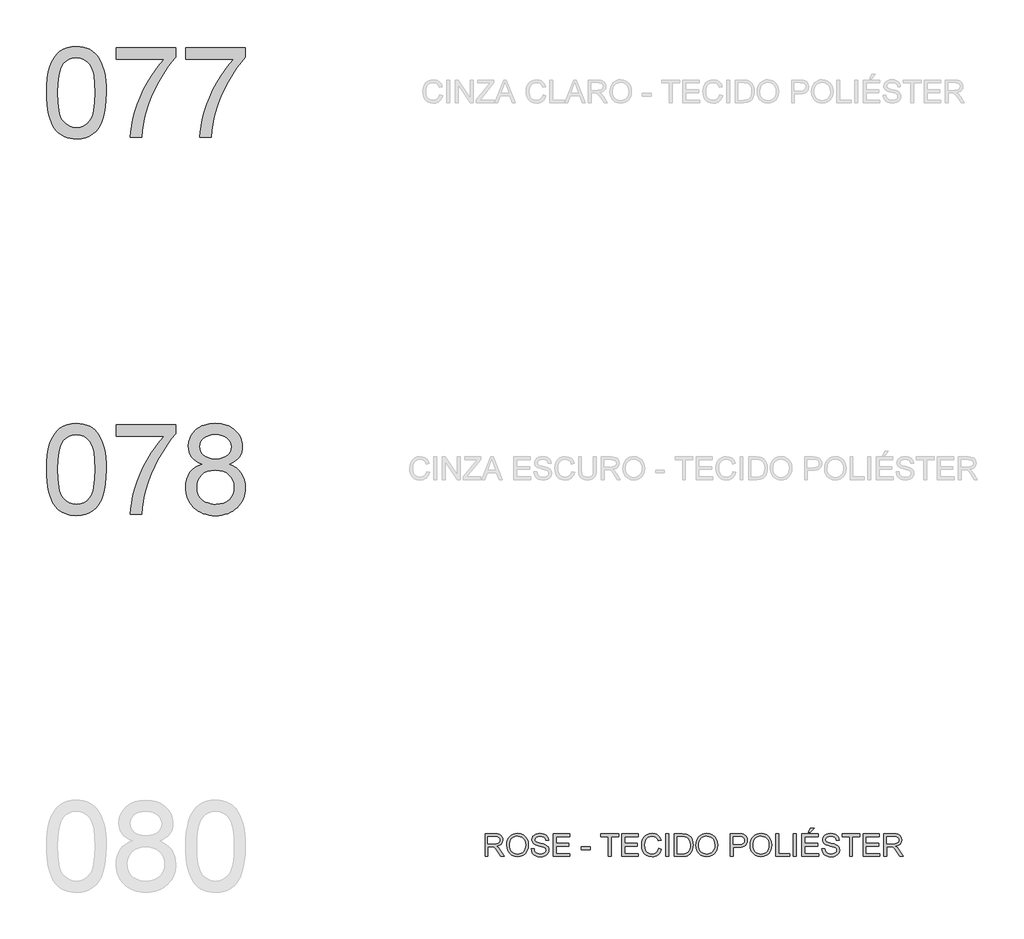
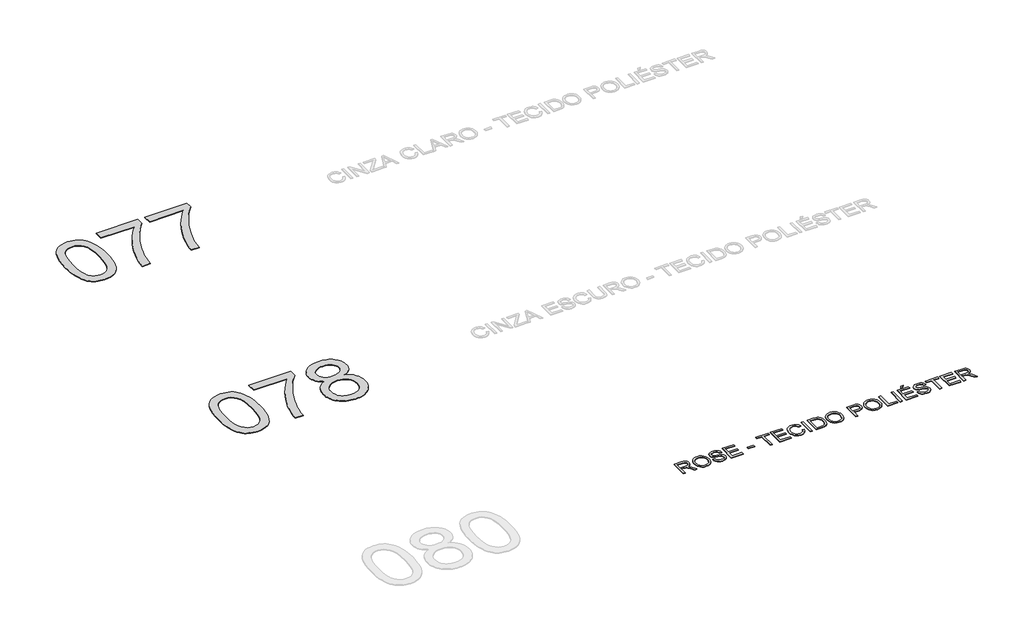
# One storey, part 28 of 67: 3 proxies.
"""IFC4 building model written with IfcOpenShell, lengths in millimetres."""

from ifc_helpers import new_model, si_unit, origin, origin_with_axes, place, context, project, spatial, polyline, outline, extrude, element, save

model = new_model("IFC4")

# Units and contexts
model_context = context("Model", 3, world=origin())
ifc_project = project(units=[si_unit("LENGTHUNIT", "METRE", prefix="MILLI")], contexts=[model_context])

# Site, building, storey
site = spatial("IfcSite", under=ifc_project)
building = spatial("IfcBuilding", under=site)
storey = spatial("IfcBuildingStorey", under=building, Name="Marelli - Linha COLAB - Planta Baixa", Elevation=0.0)

# Proxies
placement = place(None, origin())
element("IfcBuildingElementProxy", 1, Name="1200mm Arial", ObjectType="1200mm Arial", at=placement, inside=storey, context=model_context, shape_type="SweptSolid", body=[
    extrude(outline(polyline([(-181.1313792, -97395.792664), (-178.3630672, -97294.4319773), (-170.0581311, -97202.8385576), (-156.2165711, -97121.0124048), (-136.838387, -97048.953519), (-112.0063523, -96986.073289), (-81.8032405, -96931.7831035), (-46.2290516, -96886.0829627), (-5.2837855, -96848.9728664), (41.1705134, -96820.2596767), (93.271801, -96799.7502555), (151.0200772, -96787.4446027), (214.415342, -96783.3427185), (262.0560604, -96785.7707396), (307.2687576, -96793.0548031), (350.0534336, -96805.194909), (390.4100885, -96822.1910572), (427.3638349, -96843.7581391), (459.9397856, -96869.6110463), (488.1379405, -96899.7497788), (511.9582997, -96934.1743365), (532.5964796, -96972.7467637), (551.2480968, -97015.3291046), (582.5916428, -97112.5235278), (594.5662017, -97169.6831928), (603.1194581, -97235.9479371), (608.2514119, -97311.3177609), (609.9620632, -97395.792664), (607.2213424, -97496.5095573), (598.9991798, -97587.6431245), (585.2955754, -97669.1933658), (566.1105294, -97741.1602811), (541.4716328, -97804.0681023), (511.4064767, -97858.4410612), (475.9150612, -97904.2791578), (434.9973863, -97941.5823921), (388.4879051, -97970.4887199), (336.2210706, -97991.1360968), (278.1968829, -98003.524523), (214.415342, -98007.6539984), (171.7410306, -98005.8605737), (131.4211639, -98000.4802995), (93.455742, -97991.5131759), (57.8447649, -97978.9592028), (24.5882325, -97962.8183803), (-6.3138551, -97943.0907083), (-34.8614979, -97919.7761868), (-61.054696, -97892.8748159), (-89.1976686, -97850.2786794), (-113.5882449, -97802.0999336), (-134.2264248, -97748.3385785), (-151.1122084, -97688.9946142), (-164.2455956, -97624.0680406), (-173.6265865, -97553.5588577), (-179.255181, -97477.4670655), (-181.1313792, -97395.792664)]), holes=[polyline([(-30.446914, -97395.4983584), (-26.03233, -97526.4919399), (-12.7885782, -97632.5247279), (-2.8557643, -97676.1808245), (9.2843415, -97713.5967226), (23.6317393, -97744.7724225), (40.1864291, -97769.7079239), (77.5632398, -97807.884878), (119.0603289, -97835.1541309), (164.6776963, -97851.5156826), (214.415342, -97856.9695332), (264.1529878, -97851.4972885), (309.7703552, -97835.0805545), (351.2674442, -97807.7193311), (388.6442549, -97769.4136183), (405.1989447, -97744.418336), (419.5463425, -97713.2104465), (431.6864484, -97675.7899498), (441.6192622, -97632.1568459), (454.8630141, -97526.2528166), (459.277598, -97395.4983584), (455.0101669, -97267.9720648), (442.2078734, -97163.8062779), (432.6061533, -97120.4835744), (420.8707177, -97083.0009976), (407.0015665, -97051.3585475), (390.9986997, -97025.5562241), (354.2472884, -96985.5122689), (312.2719527, -96956.9094438), (265.0726927, -96939.7477487), (212.6495084, -96934.0271837), (163.1693801, -96939.067167), (118.3245649, -96954.187117), (78.1150628, -96979.3870337), (42.5408739, -97014.666917), (25.4343611, -97043.2145599), (10.6087167, -97077.2068562), (-1.9360594, -97116.6438061), (-12.199967, -97161.5254095), (-25.8851772, -97267.6225769), (-30.446914, -97395.4983584)])]), origin_with_axes(), (0.0, 0.0, 1.0), 10.0),
    extrude(outline(polyline([(741.8109703, -96952.8627418), (741.8109703, -96802.1782766), (1532.9044127, -96802.1782766), (1532.9044127, -96924.0207934), (1476.3885412, -96990.5246611), (1420.1485812, -97066.7222194), (1364.1845327, -97152.6134682), (1308.4963957, -97248.1984076), (1256.1008025, -97349.3383651), (1210.0143856, -97451.8946683), (1170.2371448, -97555.8673172), (1136.7690803, -97661.2563118), (1116.8298762, -97737.7941609), (1100.8637976, -97817.9004653), (1088.8708445, -97901.5752251), (1080.8510171, -97988.8184403), (930.1665518, -97988.8184403), (934.9030325, -97914.8189769), (946.4637242, -97833.4986619), (964.8486269, -97744.8574952), (990.0577406, -97648.8954767), (1021.7967598, -97550.1651463), (1059.7713787, -97453.2190435), (1103.9815975, -97358.0571684), (1154.4274161, -97264.679521), (1208.8371632, -97175.8268221), (1264.9391674, -97094.2397926), (1322.7334289, -97019.9184325), (1382.2199475, -96952.8627418), (741.8109703, -96952.8627418)])), origin_with_axes(), (0.0, 0.0, 1.0), 10.0),
    extrude(outline(polyline([(1664.7533198, -96952.8627418), (1664.7533198, -96802.1782766), (2455.8467622, -96802.1782766), (2455.8467622, -96924.0207934), (2399.3308907, -96990.5246611), (2343.0909307, -97066.7222194), (2287.1268822, -97152.6134682), (2231.4387452, -97248.1984076), (2179.043152, -97349.3383651), (2132.9567351, -97451.8946683), (2093.1794943, -97555.8673172), (2059.7114298, -97661.2563118), (2039.7722257, -97737.7941609), (2023.8061471, -97817.9004653), (2011.813194, -97901.5752251), (2003.7933666, -97988.8184403), (1853.1089013, -97988.8184403), (1857.845382, -97914.8189769), (1869.4060737, -97833.4986619), (1887.7909764, -97744.8574952), (1913.0000901, -97648.8954767), (1944.7391093, -97550.1651463), (1982.7137282, -97453.2190435), (2026.923947, -97358.0571684), (2077.3697656, -97264.679521), (2131.7795127, -97175.8268221), (2187.8815169, -97094.2397926), (2245.6757784, -97019.9184325), (2305.162297, -96952.8627418), (1664.7533198, -96952.8627418)])), origin_with_axes(), (0.0, 0.0, 1.0), 10.0),
])
element("IfcBuildingElementProxy", 2, Name="1200mm Arial", ObjectType="1200mm Arial", at=placement, inside=storey, context=model_context, shape_type="SweptSolid", body=[
    extrude(outline(polyline([(-181.1313792, -102395.792664), (-178.3630672, -102294.4319773), (-170.0581311, -102202.8385576), (-156.2165711, -102121.0124048), (-136.838387, -102048.953519), (-112.0063523, -101986.073289), (-81.8032405, -101931.7831035), (-46.2290516, -101886.0829627), (-5.2837855, -101848.9728664), (41.1705134, -101820.2596767), (93.271801, -101799.7502555), (151.0200772, -101787.4446027), (214.415342, -101783.3427185), (262.0560604, -101785.7707396), (307.2687576, -101793.0548031), (350.0534336, -101805.194909), (390.4100885, -101822.1910572), (427.3638349, -101843.7581391), (459.9397856, -101869.6110463), (488.1379405, -101899.7497788), (511.9582997, -101934.1743365), (532.5964796, -101972.7467637), (551.2480968, -102015.3291046), (582.5916428, -102112.5235278), (594.5662017, -102169.6831928), (603.1194581, -102235.9479371), (608.2514119, -102311.3177609), (609.9620632, -102395.792664), (607.2213424, -102496.5095573), (598.9991798, -102587.6431245), (585.2955754, -102669.1933658), (566.1105294, -102741.1602811), (541.4716328, -102804.0681023), (511.4064767, -102858.4410612), (475.9150612, -102904.2791578), (434.9973863, -102941.5823921), (388.4879051, -102970.4887199), (336.2210706, -102991.1360968), (278.1968829, -103003.524523), (214.415342, -103007.6539984), (171.7410306, -103005.8605737), (131.4211639, -103000.4802995), (93.455742, -102991.5131759), (57.8447649, -102978.9592028), (24.5882325, -102962.8183803), (-6.3138551, -102943.0907083), (-34.8614979, -102919.7761868), (-61.054696, -102892.8748159), (-89.1976686, -102850.2786794), (-113.5882449, -102802.0999336), (-134.2264248, -102748.3385785), (-151.1122084, -102688.9946142), (-164.2455956, -102624.0680406), (-173.6265865, -102553.5588577), (-179.255181, -102477.4670655), (-181.1313792, -102395.792664)]), holes=[polyline([(-30.446914, -102395.4983584), (-26.03233, -102526.4919399), (-12.7885782, -102632.5247279), (-2.8557643, -102676.1808245), (9.2843415, -102713.5967226), (23.6317393, -102744.7724225), (40.1864291, -102769.7079239), (77.5632398, -102807.884878), (119.0603289, -102835.1541309), (164.6776963, -102851.5156826), (214.415342, -102856.9695332), (264.1529878, -102851.4972885), (309.7703552, -102835.0805545), (351.2674442, -102807.7193311), (388.6442549, -102769.4136183), (405.1989447, -102744.418336), (419.5463425, -102713.2104465), (431.6864484, -102675.7899498), (441.6192622, -102632.1568459), (454.8630141, -102526.2528166), (459.277598, -102395.4983584), (455.0101669, -102267.9720648), (442.2078734, -102163.8062779), (432.6061533, -102120.4835744), (420.8707177, -102083.0009976), (407.0015665, -102051.3585475), (390.9986997, -102025.5562241), (354.2472884, -101985.5122689), (312.2719527, -101956.9094438), (265.0726927, -101939.7477487), (212.6495084, -101934.0271837), (163.1693801, -101939.067167), (118.3245649, -101954.187117), (78.1150628, -101979.3870337), (42.5408739, -102014.666917), (25.4343611, -102043.2145599), (10.6087167, -102077.2068562), (-1.9360594, -102116.6438061), (-12.199967, -102161.5254095), (-25.8851772, -102267.6225769), (-30.446914, -102395.4983584)])]), origin_with_axes(), (0.0, 0.0, 1.0), 10.0),
    extrude(outline(polyline([(741.8109703, -101952.8627418), (741.8109703, -101802.1782766), (1532.9044127, -101802.1782766), (1532.9044127, -101924.0207934), (1476.3885412, -101990.5246611), (1420.1485812, -102066.7222194), (1364.1845327, -102152.6134682), (1308.4963957, -102248.1984076), (1256.1008025, -102349.3383651), (1210.0143856, -102451.8946683), (1170.2371448, -102555.8673172), (1136.7690803, -102661.2563118), (1116.8298762, -102737.7941609), (1100.8637976, -102817.9004653), (1088.8708445, -102901.5752251), (1080.8510171, -102988.8184403), (930.1665518, -102988.8184403), (934.9030325, -102914.8189769), (946.4637242, -102833.4986619), (964.8486269, -102744.8574952), (990.0577406, -102648.8954767), (1021.7967598, -102550.1651463), (1059.7713787, -102453.2190435), (1103.9815975, -102358.0571684), (1154.4274161, -102264.679521), (1208.8371632, -102175.8268221), (1264.9391674, -102094.2397926), (1322.7334289, -102019.9184325), (1382.2199475, -101952.8627418), (741.8109703, -101952.8627418)])), origin_with_axes(), (0.0, 0.0, 1.0), 10.0),
    extrude(outline(polyline([(1884.3052945, -102324.8650154), (1840.9595984, -102306.7652212), (1803.628773, -102285.1337599), (1772.3128181, -102259.9706314), (1747.0117339, -102231.2758358), (1727.5047911, -102199.3252845), (1713.5712606, -102164.3948891), (1705.2111422, -102126.4846495), (1702.4244361, -102085.5945657), (1708.494489, -102024.1398784), (1716.0820552, -101995.3301197), (1726.7046478, -101967.7987509), (1740.3622669, -101941.545772), (1757.0549124, -101916.571183), (1799.5452828, -101870.4571749), (1824.8325715, -101850.0397242), (1852.134014, -101832.3446002), (1881.4496105, -101817.371803), (1912.7793609, -101805.1213326), (1981.4813235, -101788.787372), (2058.2399018, -101783.3427185), (2135.3663621, -101788.9161307), (2204.5833595, -101805.6363674), (2236.2258096, -101818.1765449), (2265.890894, -101833.5034285), (2293.5786127, -101851.6170183), (2319.2889656, -101872.5173141), (2362.5518882, -101919.5326331), (2379.5480364, -101944.8613085), (2393.4539758, -101971.4039944), (2404.2697065, -101999.1606909), (2411.9952284, -102028.1313981), (2416.6305415, -102058.3161158), (2418.1756459, -102089.7148441), (2415.425728, -102129.160991), (2407.1759743, -102165.9767817), (2393.4263847, -102200.1622161), (2374.1769593, -102231.7172942), (2349.3357276, -102260.2189518), (2318.810719, -102285.2441245), (2282.6019336, -102306.7928124), (2240.7093714, -102324.8650154), (2290.235485, -102345.9354566), (2333.4524224, -102372.6528865), (2370.3601836, -102405.0173051), (2400.9587685, -102443.0287122), (2424.9722658, -102485.8409794), (2442.1247638, -102532.607978), (2452.4162626, -102583.3297081), (2455.8467622, -102638.0061697), (2454.145308, -102676.3670647), (2449.0409453, -102713.1644613), (2440.5336742, -102748.3983594), (2428.6234946, -102782.068759), (2413.3104065, -102814.1756601), (2394.59441, -102844.7190628), (2372.4755051, -102873.6989669), (2346.9536917, -102901.1153726), (2318.6543692, -102926.085363), (2288.202937, -102947.7260214), (2255.5993952, -102966.0373477), (2220.8437437, -102981.019342), (2183.9359825, -102992.6720042), (2144.8761117, -103000.9953343), (2103.6641312, -103005.9893324), (2060.300041, -103007.6539984), (2016.9359508, -103005.9824346), (1975.7239703, -103000.9677432), (1936.6640995, -102992.6099241), (1899.7563383, -102980.9089774), (1865.0006868, -102965.864903), (1832.397145, -102947.4777011), (1801.9457128, -102925.7473715), (1773.6463904, -102900.6739142), (1748.124577, -102873.1034579), (1726.005672, -102843.8821312), (1707.2896755, -102813.009934), (1691.9765874, -102780.4868664), (1680.0664078, -102746.3129283), (1671.5591367, -102710.4881198), (1666.454774, -102673.0124408), (1664.7533198, -102633.8858913), (1668.3217751, -102576.7170293), (1679.0271412, -102524.4042096), (1696.869418, -102476.9474322), (1721.8486054, -102434.3466971), (1753.4128806, -102397.3745566), (1791.0104205, -102366.8035628), (1834.6412252, -102342.6337157), (1884.3052945, -102324.8650154)]), holes=[polyline([(1853.1089013, -102090.0091496), (1856.4474304, -102124.553269), (1866.4630178, -102155.7864504), (1883.1556633, -102183.7086938), (1906.525367, -102208.3199993), (1936.2778234, -102228.4063562), (1972.1187268, -102242.753754), (2014.0480772, -102251.3621927), (2062.0658746, -102254.2316723), (2108.8972526, -102251.3805868), (2149.916095, -102242.8273304), (2185.122402, -102228.5719031), (2214.5161734, -102208.6143049), (2237.6927391, -102184.5180342), (2254.2474289, -102157.8465896), (2264.1802427, -102128.5999709), (2267.4911807, -102096.7781784), (2264.0698781, -102063.714784), (2253.8059705, -102033.3921106), (2236.6994577, -102005.810158), (2212.7503398, -101980.9689263), (2182.6943808, -101960.4319139), (2147.2673447, -101945.7626193), (2106.4692314, -101936.9610426), (2060.300041, -101934.0271837), (2013.7721657, -101936.8966633), (1972.7809144, -101945.5051019), (1937.3262871, -101959.8524998), (1907.4082838, -101979.9388567), (1883.652304, -102004.0351274), (1866.6837469, -102030.4122664), (1856.5026127, -102059.0702739), (1853.1089013, -102090.0091496)]), polyline([(1815.437785, -102628.5883906), (1817.0104805, -102657.6418712), (1821.7285671, -102686.2354992), (1840.6009135, -102742.0431979), (1855.6013018, -102767.9328933), (1875.4393384, -102790.7139859), (1900.1150233, -102810.3864756), (1929.6283563, -102826.9503624), (1961.8180309, -102840.0837496), (1994.5227403, -102849.4647405), (2027.7424844, -102855.093335), (2061.4772634, -102856.9695332), (2115.9605869, -102853.0239988), (2164.0427636, -102841.1873956), (2205.7237937, -102821.4597236), (2241.003677, -102793.8409828), (2269.0730733, -102760.133795), (2289.122642, -102722.140782), (2301.1523833, -102679.8619437), (2305.162297, -102633.2972801), (2301.0236246, -102585.9876555), (2288.6076072, -102542.9454621), (2267.914245, -102504.1706998), (2238.9435379, -102469.6633687), (2202.7071613, -102441.336455), (2160.2167909, -102421.1029453), (2111.4724265, -102408.9628395), (2056.4740683, -102404.9161375), (2002.7908881, -102408.9076572), (1955.3433078, -102420.8822161), (1914.1313273, -102440.8398143), (1879.1549466, -102468.7804519), (1851.2786884, -102502.7175659), (1831.3670754, -102540.6645937), (1819.4201076, -102582.6215353), (1815.437785, -102628.5883906)])]), origin_with_axes(), (0.0, 0.0, 1.0), 10.0),
])
element("IfcBuildingElementProxy", 3, Name="300mm Arial", ObjectType="300mm Arial", at=placement, inside=storey, context=model_context, shape_type="SweptSolid", body=[
    extrude(outline(polyline([(5637.7950556, -107530.5663201), (5637.7950556, -107229.1973896), (5767.6573999, -107229.1973896), (5802.5602042, -107231.2299376), (5827.9532589, -107237.3275817), (5846.5129056, -107248.5847708), (5860.9154857, -107266.0959537), (5870.1585208, -107287.8101885), (5873.2395325, -107311.6765329), (5868.1351699, -107341.3646099), (5852.8220818, -107365.9759154), (5841.2223027, -107376.0052983), (5826.8404159, -107384.0205273), (5789.7303196, -107394.0085235), (5811.1410518, -107410.1217548), (5841.6752574, -107448.8965171), (5891.9279379, -107530.5663201), (5848.1499805, -107530.5663201), (5808.9337598, -107468.0999573), (5780.6068462, -107426.750021), (5760.7044302, -107407.2154871), (5742.7885771, -107400.0417882), (5720.9363865, -107398.717413), (5675.4661719, -107398.717413), (5675.4661719, -107530.5663201), (5637.7950556, -107530.5663201)]), holes=[polyline([(5675.4661719, -107361.0462967), (5759.7847252, -107361.0462967), (5784.0005576, -107359.7127245), (5802.7901305, -107355.7120078), (5816.9351932, -107348.7774322), (5827.217495, -107338.6422832), (5833.4806859, -107326.3826157), (5835.5684162, -107313.0744845), (5831.5860936, -107294.6987789), (5819.6391259, -107279.8915286), (5799.0837194, -107270.1242616), (5769.2760807, -107266.8685059), (5675.4661719, -107266.8685059), (5675.4661719, -107361.0462967)])]), origin_with_axes(), (0.0, 0.0, 1.0), 10.0),
    extrude(outline(polyline([(5925.0373175, -107383.8549804), (5927.5481121, -107348.5061192), (5935.0804959, -107317.213157), (5947.634469, -107289.9760937), (5965.2100313, -107266.7949295), (5986.7541207, -107248.2858666), (6011.2136748, -107235.0651074), (6038.5886938, -107227.1326519), (6068.8791776, -107224.4885001), (6108.408098, -107229.454907), (6143.8535282, -107244.3541278), (6173.2840878, -107268.1376988), (6194.7683963, -107299.7571563), (6207.9017836, -107337.68579), (6212.2795793, -107380.3968896), (6207.6718573, -107423.6782064), (6193.8486913, -107462.140269), (6171.5734365, -107493.8149087), (6141.609448, -107516.733957), (6106.4675204, -107530.6398965), (6068.6584484, -107535.2752096), (6028.5225227, -107530.1524528), (5992.8747574, -107514.7841825), (5963.5177742, -107490.5591531), (5942.2541948, -107458.8661192), (5929.3415368, -107422.3998164), (5925.0373175, -107383.8549804)]), holes=[polyline([(5962.7084338, -107384.2228624), (5964.5915297, -107409.1974513), (5970.2408176, -107431.3669401), (5979.6562974, -107450.7313286), (5992.8379692, -107467.2906169), (6008.8615293, -107480.5527628), (6026.8026744, -107490.0257242), (6046.6614043, -107495.709501), (6068.4377192, -107497.6040933), (6090.5865146, -107495.6911069), (6110.6797693, -107489.9521478), (6128.7174834, -107480.3872159), (6144.6996568, -107466.9963113), (6157.7847595, -107450.0875351), (6167.1312614, -107429.9689885), (6172.7391626, -107406.6406715), (6174.608463, -107380.102584), (6171.4078896, -107346.7540812), (6161.8061696, -107317.9305269), (6146.0516231, -107294.358488), (6124.3925707, -107276.7645316), (6098.2637519, -107265.8108452), (6069.0999068, -107262.1596164), (6048.0800493, -107263.9185522), (6028.577705, -107269.1953595), (6010.592874, -107277.9900385), (5994.1255562, -107290.302589), (5980.3805651, -107306.7262208), (5970.5627144, -107327.8541437), (5964.6720039, -107353.6863575), (5962.7084338, -107384.2228624)])]), origin_with_axes(), (0.0, 0.0, 1.0), 10.0),
    extrude(outline(polyline([(6249.9506956, -107426.9707502), (6287.6218119, -107426.9707502), (6291.9444254, -107447.8756446), (6299.7619178, -107464.6786547), (6311.9572059, -107478.0143771), (6329.4132066, -107488.517408), (6350.7503623, -107495.332422), (6374.5891156, -107497.6040933), (6395.5767834, -107495.884245), (6413.9524891, -107490.7247), (6428.8425128, -107482.5577197), (6439.3731349, -107471.8155654), (6445.6363259, -107459.4823216), (6447.7240562, -107446.5420724), (6446.1605577, -107433.932917), (6441.4700623, -107423.0344129), (6431.9419186, -107413.7361954), (6415.8654754, -107405.9279001), (6361.01427, -107391.5437141), (6325.0078197, -107382.0247675), (6301.9692097, -107372.9656733), (6283.216425, -107360.2921386), (6269.9266879, -107344.9330653), (6262.008028, -107327.2195472), (6259.3684747, -107307.4826782), (6262.6334274, -107285.4189555), (6272.4282855, -107264.845155), (6288.4955317, -107247.4075484), (6310.5776484, -107234.7524077), (6337.0835462, -107227.054477), (6366.4221353, -107224.4885001), (6398.2071397, -107227.1740386), (6426.0190185, -107235.2306543), (6448.8644904, -107248.4928003), (6465.750274, -107266.7949295), (6476.4372459, -107288.9966079), (6480.686283, -107313.9574013), (6443.0151667, -107313.9574013), (6436.0989852, -107291.4798114), (6421.678011, -107275.2562154), (6399.1452388, -107265.4337661), (6367.8936633, -107262.1596164), (6335.9063238, -107265.3969779), (6313.9621628, -107275.1090626), (6301.2702339, -107289.4012781), (6297.039591, -107306.3790322), (6300.0378293, -107320.8551887), (6309.032544, -107332.4986539), (6330.2961234, -107342.9097143), (6370.5424136, -107353.541504), (6412.0762909, -107363.6398648), (6437.2026312, -107372.4506385), (6458.6777426, -107386.1174547), (6473.6597369, -107402.9848441), (6482.4613136, -107422.868866), (6485.3951725, -107445.5855792), (6482.0198552, -107468.8081301), (6471.8939033, -107490.6511236), (6455.431184, -107509.4498935), (6433.0455646, -107523.539774), (6406.1257996, -107532.3413507), (6376.0606436, -107535.2752096), (6339.1528824, -107532.1114244), (6308.7750266, -107522.620069), (6284.5775884, -107506.764355), (6266.2110798, -107484.5074943), (6254.4204619, -107457.3945912), (6249.9506956, -107426.9707502)])), origin_with_axes(), (0.0, 0.0, 1.0), 10.0),
    extrude(outline(polyline([(6541.901847, -107530.5663201), (6541.901847, -107229.1973896), (6758.5107657, -107229.1973896), (6758.5107657, -107266.8685059), (6579.5729633, -107266.8685059), (6579.5729633, -107356.3374072), (6749.0929867, -107356.3374072), (6749.0929867, -107394.0085235), (6579.5729633, -107394.0085235), (6579.5729633, -107492.8952038), (6763.2196553, -107492.8952038), (6763.2196553, -107530.5663201), (6541.901847, -107530.5663201)])), origin_with_axes(), (0.0, 0.0, 1.0), 10.0),
    extrude(outline(polyline([(6913.9041205, -107441.0974188), (6913.9041205, -107403.4263025), (7031.626359, -107403.4263025), (7031.626359, -107441.0974188), (6913.9041205, -107441.0974188)])), origin_with_axes(), (0.0, 0.0, 1.0), 10.0),
    extrude(outline(polyline([(7271.7797254, -107530.5663201), (7271.7797254, -107266.8685059), (7172.8930451, -107266.8685059), (7172.8930451, -107229.1973896), (7408.337522, -107229.1973896), (7408.337522, -107266.8685059), (7309.4508417, -107266.8685059), (7309.4508417, -107530.5663201), (7271.7797254, -107530.5663201)])), origin_with_axes(), (0.0, 0.0, 1.0), 10.0),
    extrude(outline(polyline([(7450.7175279, -107530.5663201), (7450.7175279, -107229.1973896), (7667.3264466, -107229.1973896), (7667.3264466, -107266.8685059), (7488.3886442, -107266.8685059), (7488.3886442, -107356.3374072), (7657.9086676, -107356.3374072), (7657.9086676, -107394.0085235), (7488.3886442, -107394.0085235), (7488.3886442, -107492.8952038), (7672.0353362, -107492.8952038), (7672.0353362, -107530.5663201), (7450.7175279, -107530.5663201)])), origin_with_axes(), (0.0, 0.0, 1.0), 10.0),
    extrude(outline(polyline([(7940.4420398, -107423.4390831), (7978.1131562, -107433.1511677), (7970.6589472, -107456.5783531), (7960.7307319, -107477.0486868), (7948.3285101, -107494.5621691), (7933.4522819, -107509.1187997), (7916.4377397, -107520.5622291), (7897.6205756, -107528.7361071), (7877.0007898, -107533.640434), (7854.5783822, -107535.2752096), (7810.8831982, -107530.3271968), (7776.182729, -107515.4831583), (7749.5848607, -107491.2581289), (7730.1974796, -107458.1671434), (7718.3608764, -107419.2636224), (7714.415342, -107377.6009865), (7718.8759112, -107333.6574821), (7732.2576188, -107295.7104543), (7753.8614889, -107264.9647166), (7782.9885459, -107242.6250824), (7817.5326653, -107229.0226457), (7855.3877226, -107224.4885001), (7896.6916736, -107230.3562179), (7914.6604098, -107237.6908652), (7930.8403198, -107247.9593714), (7944.9646891, -107260.8904235), (7956.7668034, -107276.2127086), (7973.4042666, -107314.0309777), (7935.7331503, -107323.0072984), (7922.6733395, -107295.5357104), (7904.8310627, -107276.6909552), (7881.9855908, -107265.7924511), (7853.9161946, -107262.1596164), (7821.5609731, -107266.1879242), (7794.981499, -107278.2728478), (7774.8123686, -107297.1451941), (7761.6881784, -107321.5357704), (7754.4868883, -107349.1085259), (7752.0864583, -107377.5274101), (7754.9283467, -107412.3290468), (7763.454012, -107442.421794), (7777.9853508, -107466.6560205), (7798.8442599, -107483.8820949), (7823.8510385, -107494.1735937), (7850.8259858, -107497.6040933), (7882.2706994, -107492.931992), (7908.4730945, -107478.9156879), (7928.2559488, -107455.702334), (7940.4420398, -107423.4390831)])), origin_with_axes(), (0.0, 0.0, 1.0), 10.0),
    extrude(outline(polyline([(8034.6198306, -107530.5663201), (8034.6198306, -107229.1973896), (8072.2909469, -107229.1973896), (8072.2909469, -107530.5663201), (8034.6198306, -107530.5663201)])), origin_with_axes(), (0.0, 0.0, 1.0), 10.0),
    extrude(outline(polyline([(8147.6331795, -107530.5663201), (8147.6331795, -107229.1973896), (8251.5966314, -107229.1973896), (8305.3809791, -107233.5383972), (8329.4036733, -107241.9077126), (8349.6739713, -107255.0962821), (8370.5144863, -107278.0521186), (8385.3585248, -107306.5997614), (8394.242875, -107340.1873876), (8397.2043251, -107378.2631741), (8395.1993682, -107410.6091985), (8389.1844976, -107439.0740679), (8380.0242359, -107463.3082943), (8368.5831058, -107482.9623899), (8355.4129304, -107498.477813), (8341.0655326, -107510.2960221), (8324.5936163, -107519.0608107), (8305.0498853, -107525.4159721), (8256.5998265, -107530.5663201), (8147.6331795, -107530.5663201)]), holes=[polyline([(8185.3042958, -107492.8952038), (8251.9645134, -107492.8952038), (8279.5372689, -107491.5340404), (8300.4513603, -107487.4505502), (8316.2334979, -107480.8838566), (8328.410392, -107472.0730828), (8341.4977939, -107455.7667134), (8351.3294403, -107434.6594839), (8357.4822666, -107408.6594239), (8359.5332088, -107377.6745629), (8355.514098, -107336.6189322), (8343.4567656, -107306.3054558), (8325.6420799, -107285.4833349), (8304.3509095, -107272.9017706), (8282.68266, -107268.3768221), (8250.9344438, -107266.8685059), (8185.3042958, -107266.8685059), (8185.3042958, -107492.8952038)])]), origin_with_axes(), (0.0, 0.0, 1.0), 10.0),
    extrude(outline(polyline([(8434.8754414, -107383.8549804), (8437.386236, -107348.5061192), (8444.9186198, -107317.213157), (8457.4725929, -107289.9760937), (8475.0481552, -107266.7949295), (8496.5922446, -107248.2858666), (8521.0517987, -107235.0651074), (8548.4268177, -107227.1326519), (8578.7173015, -107224.4885001), (8618.2462219, -107229.454907), (8653.6916521, -107244.3541278), (8683.1222117, -107268.1376988), (8704.6065202, -107299.7571563), (8717.7399075, -107337.68579), (8722.1177032, -107380.3968896), (8717.5099812, -107423.6782064), (8703.6868152, -107462.140269), (8681.4115604, -107493.8149087), (8651.4475719, -107516.733957), (8616.3056443, -107530.6398965), (8578.4965723, -107535.2752096), (8538.3606466, -107530.1524528), (8502.7128813, -107514.7841825), (8473.3558981, -107490.5591531), (8452.0923187, -107458.8661192), (8439.1796607, -107422.3998164), (8434.8754414, -107383.8549804)]), holes=[polyline([(8472.5465577, -107384.2228624), (8474.4296536, -107409.1974513), (8480.0789415, -107431.3669401), (8489.4944213, -107450.7313286), (8502.6760931, -107467.2906169), (8518.6996532, -107480.5527628), (8536.6407983, -107490.0257242), (8556.4995282, -107495.709501), (8578.2758431, -107497.6040933), (8600.4246385, -107495.6911069), (8620.5178932, -107489.9521478), (8638.5556073, -107480.3872159), (8654.5377807, -107466.9963113), (8667.6228834, -107450.0875351), (8676.9693853, -107429.9689885), (8682.5772865, -107406.6406715), (8684.4465869, -107380.102584), (8681.2460135, -107346.7540812), (8671.6442935, -107317.9305269), (8655.889747, -107294.358488), (8634.2306946, -107276.7645316), (8608.1018758, -107265.8108452), (8578.9380307, -107262.1596164), (8557.9181732, -107263.9185522), (8538.4158289, -107269.1953595), (8520.4309979, -107277.9900385), (8503.9636801, -107290.302589), (8490.218689, -107306.7262208), (8480.4008383, -107327.8541437), (8474.5101278, -107353.6863575), (8472.5465577, -107384.2228624)])]), origin_with_axes(), (0.0, 0.0, 1.0), 10.0),
    extrude(outline(polyline([(8891.6377266, -107530.5663201), (8891.6377266, -107229.1973896), (9003.3267003, -107229.1973896), (9048.3554565, -107232.0668692), (9068.4326164, -107237.4287493), (9084.959715, -107246.1567496), (9098.2678462, -107258.6463433), (9108.6881037, -107275.2930036), (9115.4203442, -107294.9287051), (9117.6644244, -107316.3854225), (9116.1492104, -107334.8852883), (9111.6035685, -107351.9044291), (9104.0274987, -107367.4428449), (9093.4210009, -107381.5005356), (9078.8597717, -107393.1531978), (9059.4195075, -107401.476528), (9035.1002084, -107406.470526), (9005.9018743, -107408.1351921), (8929.3088429, -107408.1351921), (8929.3088429, -107530.5663201), (8891.6377266, -107530.5663201)]), holes=[polyline([(8929.3088429, -107370.4640758), (9008.1091662, -107370.4640758), (9041.5128514, -107367.005985), (9063.5857711, -107356.6317127), (9075.8914239, -107339.9850525), (9079.9933081, -107317.7097977), (9077.574484, -107300.7872259), (9070.3180116, -107286.5134045), (9059.1252019, -107275.7712502), (9044.8973658, -107269.4436799), (9007.2262495, -107266.8685059), (8929.3088429, -107266.8685059), (8929.3088429, -107370.4640758)])]), origin_with_axes(), (0.0, 0.0, 1.0), 10.0),
    extrude(outline(polyline([(9155.3355407, -107383.8549804), (9157.8463353, -107348.5061192), (9165.3787192, -107317.213157), (9177.9326923, -107289.9760937), (9195.5082546, -107266.7949295), (9217.0523439, -107248.2858666), (9241.5118981, -107235.0651074), (9268.8869171, -107227.1326519), (9299.1774008, -107224.4885001), (9338.7063212, -107229.454907), (9374.1517514, -107244.3541278), (9403.5823111, -107268.1376988), (9425.0666196, -107299.7571563), (9438.2000068, -107337.68579), (9442.5778026, -107380.3968896), (9437.9700806, -107423.6782064), (9424.1469146, -107462.140269), (9401.8716598, -107493.8149087), (9371.9076713, -107516.733957), (9336.7657437, -107530.6398965), (9298.9566716, -107535.2752096), (9258.820746, -107530.1524528), (9223.1729806, -107514.7841825), (9193.8159974, -107490.5591531), (9172.5524181, -107458.8661192), (9159.6397601, -107422.3998164), (9155.3355407, -107383.8549804)]), holes=[polyline([(9193.006657, -107384.2228624), (9194.889753, -107409.1974513), (9200.5390409, -107431.3669401), (9209.9545207, -107450.7313286), (9223.1361924, -107467.2906169), (9239.1597526, -107480.5527628), (9257.1008976, -107490.0257242), (9276.9596276, -107495.709501), (9298.7359424, -107497.6040933), (9320.8847378, -107495.6911069), (9340.9779925, -107489.9521478), (9359.0157066, -107480.3872159), (9374.99788, -107466.9963113), (9388.0829828, -107450.0875351), (9397.4294847, -107429.9689885), (9403.0373859, -107406.6406715), (9404.9066862, -107380.102584), (9401.7061129, -107346.7540812), (9392.1043928, -107317.9305269), (9376.3498464, -107294.358488), (9354.6907939, -107276.7645316), (9328.5619752, -107265.8108452), (9299.39813, -107262.1596164), (9278.3782725, -107263.9185522), (9258.8759283, -107269.1953595), (9240.8910972, -107277.9900385), (9224.4237794, -107290.302589), (9210.6787884, -107306.7262208), (9200.8609376, -107327.8541437), (9194.9702272, -107353.6863575), (9193.006657, -107384.2228624)])]), origin_with_axes(), (0.0, 0.0, 1.0), 10.0),
    extrude(outline(polyline([(9494.3755875, -107530.5663201), (9494.3755875, -107229.1973896), (9532.0467038, -107229.1973896), (9532.0467038, -107492.8952038), (9682.731169, -107492.8952038), (9682.731169, -107530.5663201), (9494.3755875, -107530.5663201)])), origin_with_axes(), (0.0, 0.0, 1.0), 10.0),
    extrude(outline(polyline([(9729.8200644, -107530.5663201), (9729.8200644, -107229.1973896), (9767.4911807, -107229.1973896), (9767.4911807, -107530.5663201), (9729.8200644, -107530.5663201)])), origin_with_axes(), (0.0, 0.0, 1.0), 10.0),
    extrude(outline(polyline([(9927.593425, -107210.3618315), (9955.8467622, -107153.855157), (10002.9356576, -107153.855157), (9955.8467622, -107210.3618315), (9927.593425, -107210.3618315)])), origin_with_axes(), (0.0, 0.0, 1.0), 10.0),
    extrude(outline(polyline([(9842.8334133, -107530.5663201), (9842.8334133, -107229.1973896), (10059.4423321, -107229.1973896), (10059.4423321, -107266.8685059), (9880.5045296, -107266.8685059), (9880.5045296, -107356.3374072), (10050.024553, -107356.3374072), (10050.024553, -107394.0085235), (9880.5045296, -107394.0085235), (9880.5045296, -107492.8952038), (10064.1512216, -107492.8952038), (10064.1512216, -107530.5663201), (9842.8334133, -107530.5663201)])), origin_with_axes(), (0.0, 0.0, 1.0), 10.0),
    extrude(outline(polyline([(10106.5312274, -107426.9707502), (10144.2023438, -107426.9707502), (10148.5249572, -107447.8756446), (10156.3424496, -107464.6786547), (10168.5377377, -107478.0143771), (10185.9937384, -107488.517408), (10207.3308941, -107495.332422), (10231.1696474, -107497.6040933), (10252.1573152, -107495.884245), (10270.5330209, -107490.7247), (10285.4230447, -107482.5577197), (10295.9536668, -107471.8155654), (10302.2168577, -107459.4823216), (10304.3045881, -107446.5420724), (10302.7410896, -107433.932917), (10298.0505941, -107423.0344129), (10288.5224505, -107413.7361954), (10272.4460073, -107405.9279001), (10217.5948018, -107391.5437141), (10181.5883515, -107382.0247675), (10158.5497416, -107372.9656733), (10139.7969569, -107360.2921386), (10126.5072198, -107344.9330653), (10118.5885598, -107327.2195472), (10115.9490065, -107307.4826782), (10119.2139592, -107285.4189555), (10129.0088174, -107264.845155), (10145.0760635, -107247.4075484), (10167.1581803, -107234.7524077), (10193.664078, -107227.054477), (10223.0026671, -107224.4885001), (10254.7876715, -107227.1740386), (10282.5995503, -107235.2306543), (10305.4450222, -107248.4928003), (10322.3308058, -107266.7949295), (10333.0177778, -107288.9966079), (10337.2668148, -107313.9574013), (10299.5956985, -107313.9574013), (10292.679517, -107291.4798114), (10278.2585428, -107275.2562154), (10255.7257706, -107265.4337661), (10224.4741951, -107262.1596164), (10192.4868556, -107265.3969779), (10170.5426946, -107275.1090626), (10157.8507658, -107289.4012781), (10153.6201228, -107306.3790322), (10156.6183611, -107320.8551887), (10165.6130759, -107332.4986539), (10186.8766552, -107342.9097143), (10227.1229455, -107353.541504), (10268.6568227, -107363.6398648), (10293.783163, -107372.4506385), (10315.2582745, -107386.1174547), (10330.2402687, -107402.9848441), (10339.0418454, -107422.868866), (10341.9757044, -107445.5855792), (10338.6003871, -107468.8081301), (10328.4744351, -107490.6511236), (10312.0117159, -107509.4498935), (10289.6260964, -107523.539774), (10262.7063315, -107532.3413507), (10232.6411754, -107535.2752096), (10195.7334142, -107532.1114244), (10165.3555585, -107522.620069), (10141.1581202, -107506.764355), (10122.7916116, -107484.5074943), (10111.0009937, -107457.3945912), (10106.5312274, -107426.9707502)])), origin_with_axes(), (0.0, 0.0, 1.0), 10.0),
    extrude(outline(polyline([(10473.8246114, -107530.5663201), (10473.8246114, -107266.8685059), (10374.9379311, -107266.8685059), (10374.9379311, -107229.1973896), (10610.382408, -107229.1973896), (10610.382408, -107266.8685059), (10511.4957277, -107266.8685059), (10511.4957277, -107530.5663201), (10473.8246114, -107530.5663201)])), origin_with_axes(), (0.0, 0.0, 1.0), 10.0),
    extrude(outline(polyline([(10652.7624139, -107530.5663201), (10652.7624139, -107229.1973896), (10869.3713326, -107229.1973896), (10869.3713326, -107266.8685059), (10690.4335302, -107266.8685059), (10690.4335302, -107356.3374072), (10859.9535536, -107356.3374072), (10859.9535536, -107394.0085235), (10690.4335302, -107394.0085235), (10690.4335302, -107492.8952038), (10874.0802222, -107492.8952038), (10874.0802222, -107530.5663201), (10652.7624139, -107530.5663201)])), origin_with_axes(), (0.0, 0.0, 1.0), 10.0),
    extrude(outline(polyline([(10930.5868966, -107530.5663201), (10930.5868966, -107229.1973896), (11060.4492409, -107229.1973896), (11095.3520452, -107231.2299376), (11120.7451, -107237.3275817), (11139.3047466, -107248.5847708), (11153.7073267, -107266.0959537), (11162.9503618, -107287.8101885), (11166.0313736, -107311.6765329), (11160.9270109, -107341.3646099), (11145.6139228, -107365.9759154), (11134.0141437, -107376.0052983), (11119.6322569, -107384.0205273), (11082.5221607, -107394.0085235), (11103.9328928, -107410.1217548), (11134.4670984, -107448.8965171), (11184.7197789, -107530.5663201), (11140.9418215, -107530.5663201), (11101.7256008, -107468.0999573), (11073.3986872, -107426.750021), (11053.4962712, -107407.2154871), (11035.5804181, -107400.0417882), (11013.7282276, -107398.717413), (10968.2580129, -107398.717413), (10968.2580129, -107530.5663201), (10930.5868966, -107530.5663201)]), holes=[polyline([(10968.2580129, -107361.0462967), (11052.5765662, -107361.0462967), (11076.7923986, -107359.7127245), (11095.5819715, -107355.7120078), (11109.7270342, -107348.7774322), (11120.009336, -107338.6422832), (11126.2725269, -107326.3826157), (11128.3602573, -107313.0744845), (11124.3779347, -107294.6987789), (11112.4309669, -107279.8915286), (11091.8755604, -107270.1242616), (11062.0679217, -107266.8685059), (10968.2580129, -107266.8685059), (10968.2580129, -107361.0462967)])]), origin_with_axes(), (0.0, 0.0, 1.0), 10.0),
])

save(model, "model.ifc")
